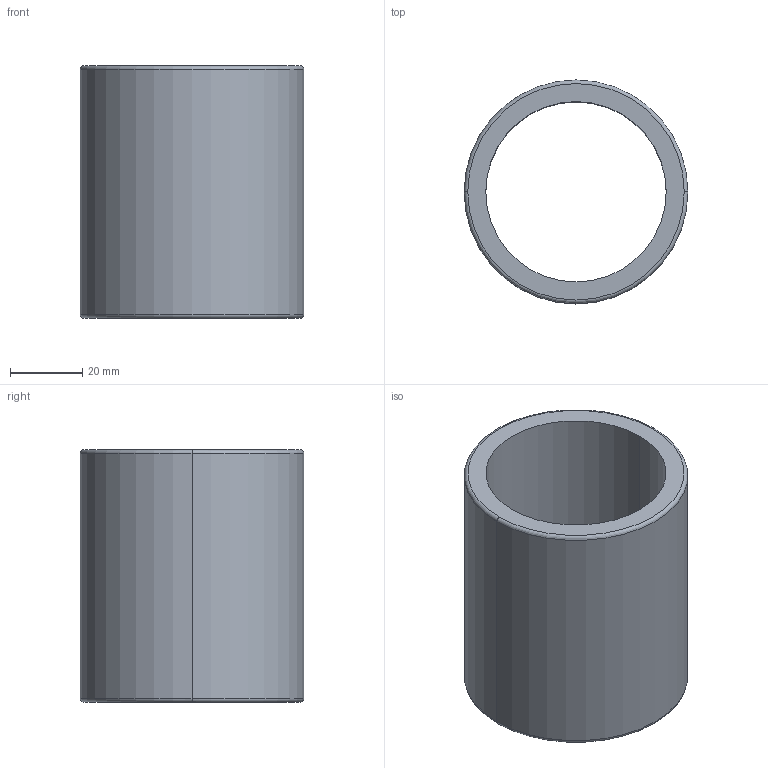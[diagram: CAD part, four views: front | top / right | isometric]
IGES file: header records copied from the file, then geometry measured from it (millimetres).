
Start section: 3D InterOp IGES (Version 21 0 1), Spatial Corp. Copyright (c) 1999-2007.
Global section: file name: CB-50.igs; native system: Spatial Corp.; preprocessor: 3D InterOp GENERIC/IGES 3.0; author: Noname; organization: Noname; date: 20220216.095841; units: millimetre
Bounding box: 62 x 62 x 70 mm (x, y, z)
Surface area: 26573.1 mm2 (no closed solid volume)
Topology: 0 solids, 0 shells, 10 faces, 40 edges, 40 vertices
Faces by surface type: revolution 8, extrusion 2
